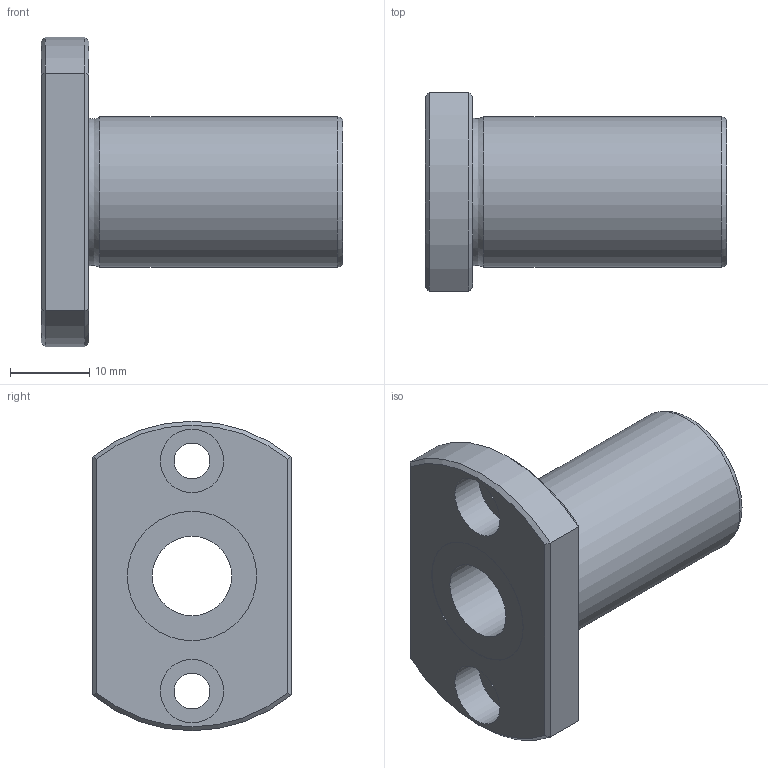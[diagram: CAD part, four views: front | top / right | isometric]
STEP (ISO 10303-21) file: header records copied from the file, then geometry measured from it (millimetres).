
FILE_DESCRIPTION((''),'2;1');
FILE_NAME('D:\製品 (図面)\カタログ用3D\メンテナンスフリー関連\STEP形式\LFT-MF\LFT10MF.stp','2010-06-01T16:06:45',('Tsuchiya'),(''),'Autodesk Inventor 10','Autodesk Inventor 10','');
FILE_SCHEMA(('AUTOMOTIVE_DESIGN { 1 0 10303 214 1 1 1 1 }'));
Length unit declared in the file: millimetre
Products named in the file (1): LFT10MF
Bounding box: 38 x 25 x 39 mm (x, y, z)
Volume: 10942.5 mm3; surface area: 5574.1 mm2
Topology: 1 solids, 1 shells, 29 faces, 56 edges, 34 vertices
Faces by surface type: plane 13, cylinder 10, cone 4, torus 1, bspline 1
Full cylindrical faces by diameter (mm): 4.5 x2, 8 x2, 10 x1, 16.3 x2, 19 x1
Entity records: 787 total; most frequent: CARTESIAN_POINT 196, DIRECTION 122, ORIENTED_EDGE 92, AXIS2_PLACEMENT_3D 55, EDGE_LOOP 50, EDGE_CURVE 46, VERTEX_POINT 34, FACE_OUTER_BOUND 29
